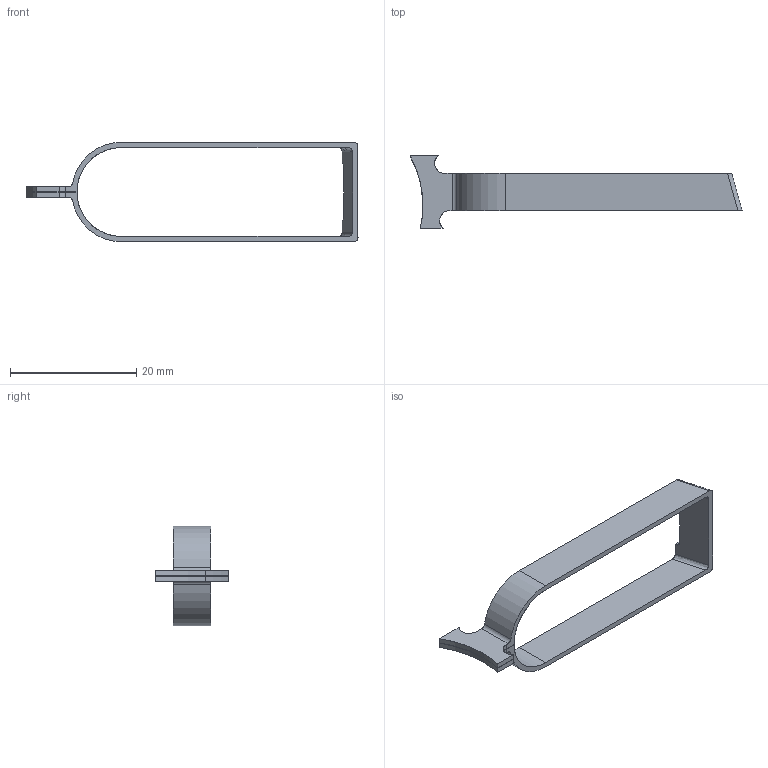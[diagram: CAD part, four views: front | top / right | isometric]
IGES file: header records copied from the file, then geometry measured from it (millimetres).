
Start section: SolidWorks IGES file using analytic representation for surfaces
Global section: file name: \\PSSILO\catalogs\CONTENTCENTRAL\Trigger Bow\Cache\867F0E70-BF0F-4A5D-B3E7-8A45ABF677E9.IGS; native system: SolidWorks 2009; preprocessor: SolidWorks 2009; author: partstream; date: 090731.224852; units: inch
Bounding box: 52.63 x 11.45 x 15.77 mm (x, y, z)
Surface area: 1730.4 mm2 (no closed solid volume)
Topology: 0 solids, 0 shells, 40 faces, 428 edges, 428 vertices
Faces by surface type: revolution 20, bspline 20
